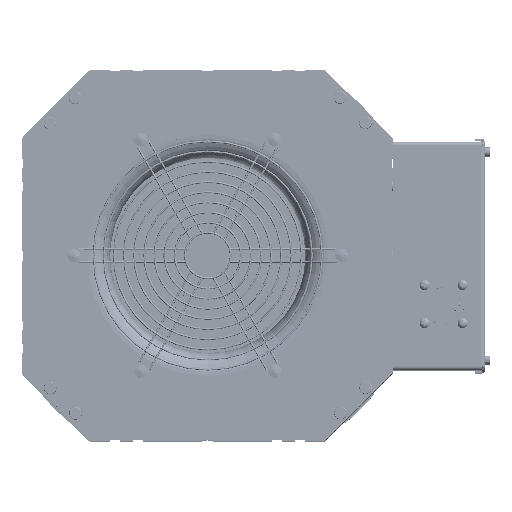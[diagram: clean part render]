
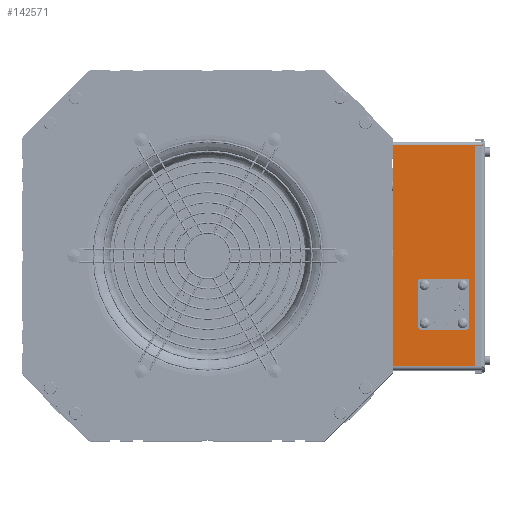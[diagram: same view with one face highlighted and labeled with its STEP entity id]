
A CAD part, top view. The second image highlights one B-rep face of the part: STEP entity #142571.
In plain terms, the highlighted planar face has unit normal (0, 0, 1) as drawn and (-1, 0, 0) by its records, which use the part's own axes.
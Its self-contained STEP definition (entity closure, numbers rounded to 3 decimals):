
#140173=DIRECTION('',(0.,0.,1.));
#140174=VECTOR('',#140173,174.);
#140175=CARTESIAN_POINT('',(-100.,0.,-87.));
#140176=LINE('',#140175,#140174);
#140340=DIRECTION('',(0.,-1.,0.));
#140341=VECTOR('',#140340,70.);
#140342=CARTESIAN_POINT('',(-100.,70.,-87.));
#140343=LINE('',#140342,#140341);
#140344=DIRECTION('',(0.,-1.,0.));
#140345=VECTOR('',#140344,70.);
#140346=CARTESIAN_POINT('',(-100.,70.,87.));
#140347=LINE('',#140346,#140345);
#140348=CARTESIAN_POINT('',(-100.,30.,-38.));
#140349=DIRECTION('',(-1.,0.,0.));
#140350=DIRECTION('',(0.,1.,0.));
#140351=AXIS2_PLACEMENT_3D('',#140348,#140349,#140350);
#140353=CARTESIAN_POINT('',(-100.,30.,-38.));
#140354=DIRECTION('',(-1.,0.,0.));
#140355=DIRECTION('',(0.,-1.,0.));
#140356=AXIS2_PLACEMENT_3D('',#140353,#140354,#140355);
#140358=CARTESIAN_POINT('',(-100.,45.,-53.));
#140359=DIRECTION('',(-1.,0.,0.));
#140360=DIRECTION('',(0.,1.,0.));
#140361=AXIS2_PLACEMENT_3D('',#140358,#140359,#140360);
#140363=CARTESIAN_POINT('',(-100.,45.,-53.));
#140364=DIRECTION('',(-1.,0.,0.));
#140365=DIRECTION('',(0.,-1.,0.));
#140366=AXIS2_PLACEMENT_3D('',#140363,#140364,#140365);
#140368=CARTESIAN_POINT('',(-100.,15.,-53.));
#140369=DIRECTION('',(-1.,0.,0.));
#140370=DIRECTION('',(0.,0.,-1.));
#140371=AXIS2_PLACEMENT_3D('',#140368,#140369,#140370);
#140373=CARTESIAN_POINT('',(-100.,15.,-53.));
#140374=DIRECTION('',(-1.,0.,0.));
#140375=DIRECTION('',(0.,0.,1.));
#140376=AXIS2_PLACEMENT_3D('',#140373,#140374,#140375);
#140378=CARTESIAN_POINT('',(-100.,15.,-23.));
#140379=DIRECTION('',(-1.,0.,0.));
#140380=DIRECTION('',(0.,-1.,0.));
#140381=AXIS2_PLACEMENT_3D('',#140378,#140379,#140380);
#140383=CARTESIAN_POINT('',(-100.,15.,-23.));
#140384=DIRECTION('',(-1.,0.,0.));
#140385=DIRECTION('',(0.,1.,0.));
#140386=AXIS2_PLACEMENT_3D('',#140383,#140384,#140385);
#140388=CARTESIAN_POINT('',(-100.,45.,-23.));
#140389=DIRECTION('',(-1.,0.,0.));
#140390=DIRECTION('',(0.,0.,1.));
#140391=AXIS2_PLACEMENT_3D('',#140388,#140389,#140390);
#140393=CARTESIAN_POINT('',(-100.,45.,-23.));
#140394=DIRECTION('',(-1.,0.,0.));
#140395=DIRECTION('',(0.,0.,-1.));
#140396=AXIS2_PLACEMENT_3D('',#140393,#140394,#140395);
#140430=DIRECTION('',(0.,0.,1.));
#140431=VECTOR('',#140430,174.);
#140432=CARTESIAN_POINT('',(-100.,70.,-87.));
#140433=LINE('',#140432,#140431);
#141904=CARTESIAN_POINT('',(-100.,0.,-87.));
#141906=VERTEX_POINT('',#141904);
#141910=CARTESIAN_POINT('',(-100.,70.,-87.));
#141911=VERTEX_POINT('',#141910);
#141929=CARTESIAN_POINT('',(-100.,0.,87.));
#141931=VERTEX_POINT('',#141929);
#141932=CARTESIAN_POINT('',(-100.,70.,87.));
#141933=VERTEX_POINT('',#141932);
#142208=CARTESIAN_POINT('',(-100.,46.,-38.));
#142209=CARTESIAN_POINT('',(-100.,14.,-38.));
#142210=VERTEX_POINT('',#142208);
#142211=VERTEX_POINT('',#142209);
#142224=CARTESIAN_POINT('',(-100.,46.75,-53.));
#142225=CARTESIAN_POINT('',(-100.,43.25,-53.));
#142226=VERTEX_POINT('',#142224);
#142227=VERTEX_POINT('',#142225);
#142305=CARTESIAN_POINT('',(-100.,15.,-54.75));
#142307=VERTEX_POINT('',#142305);
#142309=CARTESIAN_POINT('',(-100.,15.,-51.25));
#142311=VERTEX_POINT('',#142309);
#142321=CARTESIAN_POINT('',(-100.,13.25,-23.));
#142323=VERTEX_POINT('',#142321);
#142325=CARTESIAN_POINT('',(-100.,16.75,-23.));
#142327=VERTEX_POINT('',#142325);
#142337=CARTESIAN_POINT('',(-100.,45.,-21.25));
#142339=VERTEX_POINT('',#142337);
#142341=CARTESIAN_POINT('',(-100.,45.,-24.75));
#142343=VERTEX_POINT('',#142341);
#142529=CARTESIAN_POINT('',(-100.,0.,-90.));
#142530=DIRECTION('',(-1.,0.,0.));
#142531=DIRECTION('',(0.,0.,1.));
#142532=AXIS2_PLACEMENT_3D('',#142529,#142530,#142531);
#142533=PLANE('',#142532);
#142534=ORIENTED_EDGE('',*,*,#142428,.F.);
#142536=ORIENTED_EDGE('',*,*,#142535,.T.);
#142537=ORIENTED_EDGE('',*,*,#142521,.T.);
#142538=ORIENTED_EDGE('',*,*,#142351,.F.);
#142539=EDGE_LOOP('',(#142534,#142536,#142537,#142538));
#142540=FACE_OUTER_BOUND('',#142539,.F.);
#142542=ORIENTED_EDGE('',*,*,#142541,.T.);
#142544=ORIENTED_EDGE('',*,*,#142543,.T.);
#142545=EDGE_LOOP('',(#142542,#142544));
#142546=FACE_BOUND('',#142545,.F.);
#142548=ORIENTED_EDGE('',*,*,#142547,.T.);
#142550=ORIENTED_EDGE('',*,*,#142549,.T.);
#142551=EDGE_LOOP('',(#142548,#142550));
#142552=FACE_BOUND('',#142551,.F.);
#142554=ORIENTED_EDGE('',*,*,#142553,.T.);
#142556=ORIENTED_EDGE('',*,*,#142555,.T.);
#142557=EDGE_LOOP('',(#142554,#142556));
#142558=FACE_BOUND('',#142557,.F.);
#142560=ORIENTED_EDGE('',*,*,#142559,.T.);
#142562=ORIENTED_EDGE('',*,*,#142561,.T.);
#142563=EDGE_LOOP('',(#142560,#142562));
#142564=FACE_BOUND('',#142563,.F.);
#142566=ORIENTED_EDGE('',*,*,#142565,.T.);
#142568=ORIENTED_EDGE('',*,*,#142567,.T.);
#142569=EDGE_LOOP('',(#142566,#142568));
#142570=FACE_BOUND('',#142569,.F.);
#140352=CIRCLE('',#140351,16.);
#140357=CIRCLE('',#140356,16.);
#140362=CIRCLE('',#140361,1.75);
#140367=CIRCLE('',#140366,1.75);
#140372=CIRCLE('',#140371,1.75);
#140377=CIRCLE('',#140376,1.75);
#140382=CIRCLE('',#140381,1.75);
#140387=CIRCLE('',#140386,1.75);
#140392=CIRCLE('',#140391,1.75);
#140397=CIRCLE('',#140396,1.75);
#142351=EDGE_CURVE('',#141906,#141931,#140176,.T.);
#142428=EDGE_CURVE('',#141911,#141906,#140343,.T.);
#142521=EDGE_CURVE('',#141933,#141931,#140347,.T.);
#142535=EDGE_CURVE('',#141911,#141933,#140433,.T.);
#142541=EDGE_CURVE('',#142210,#142211,#140352,.T.);
#142543=EDGE_CURVE('',#142211,#142210,#140357,.T.);
#142547=EDGE_CURVE('',#142226,#142227,#140362,.T.);
#142549=EDGE_CURVE('',#142227,#142226,#140367,.T.);
#142553=EDGE_CURVE('',#142307,#142311,#140372,.T.);
#142555=EDGE_CURVE('',#142311,#142307,#140377,.T.);
#142559=EDGE_CURVE('',#142323,#142327,#140382,.T.);
#142561=EDGE_CURVE('',#142327,#142323,#140387,.T.);
#142565=EDGE_CURVE('',#142339,#142343,#140392,.T.);
#142567=EDGE_CURVE('',#142343,#142339,#140397,.T.);
#142571=ADVANCED_FACE('',(#142540,#142546,#142552,#142558,#142564,#142570),
#142533,.T.);
